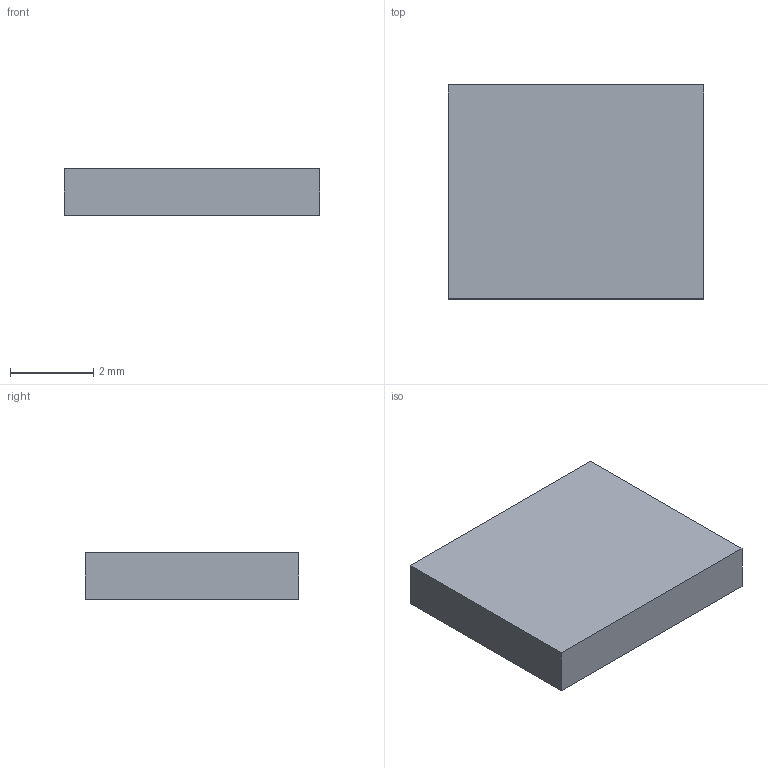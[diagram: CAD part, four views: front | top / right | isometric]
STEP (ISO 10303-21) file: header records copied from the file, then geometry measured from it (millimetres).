
FILE_DESCRIPTION(('Open CASCADE Model'),'2;1');
FILE_NAME('Open CASCADE Shape Model','2026-10-29T12:52:59',('Author'),( 'Open CASCADE'),'Open CASCADE STEP processor 7.9','Open CASCADE 7.9' ,'Unknown');
FILE_SCHEMA(('AUTOMOTIVE_DESIGN { 1 0 10303 214 1 1 1 1 }'));
Length unit declared in the file: millimetre
Products named in the file (2): Vishay_SiRA99DP_PowerPAK_SO8_ENVELOPE; package_envelope
Assembly tree (1 placements, depth 2):
  Vishay_SiRA99DP_PowerPAK_SO8_ENVELOPE
    package_envelope
Bounding box: 6.15 x 5.15 x 1.12 mm (x, y, z)
Volume: 35.5 mm3; surface area: 88.7 mm2
Topology: 1 solids, 1 shells, 6 faces, 12 edges, 8 vertices
Faces by surface type: plane 6
Entity records: 349 total; most frequent: CARTESIAN_POINT 52, DIRECTION 52, LINE 36, VECTOR 36, ORIENTED_EDGE 24, PCURVE 24, DEFINITIONAL_REPRESENTATION 24, EDGE_CURVE 12
